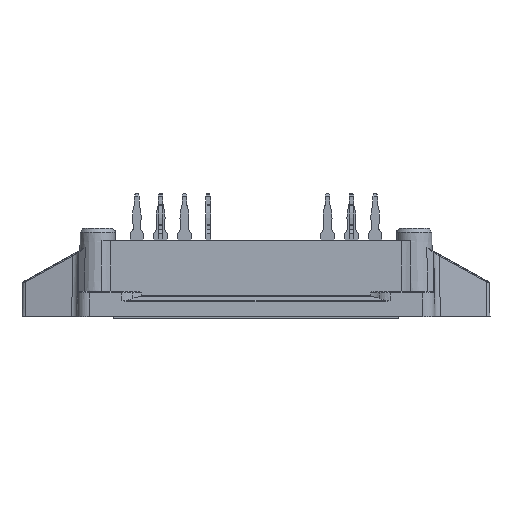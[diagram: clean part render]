
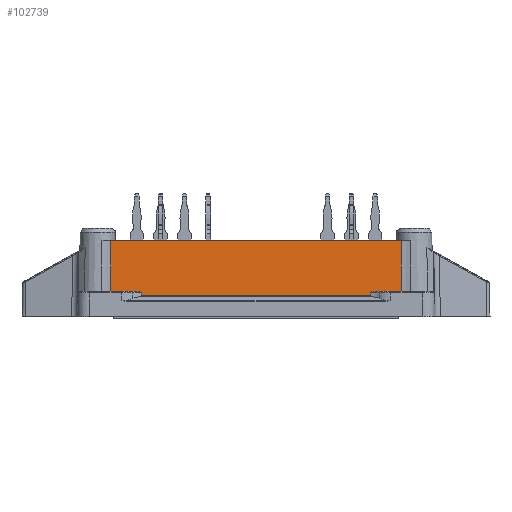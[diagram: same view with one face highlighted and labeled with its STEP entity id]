
A CAD part, front view. The second image highlights one B-rep face of the part: STEP entity #102739.
In plain terms, the highlighted planar face has unit normal (0, -1, 0.018).
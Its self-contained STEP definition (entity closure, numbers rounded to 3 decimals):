
#5688=B_SPLINE_CURVE_WITH_KNOTS('',3,(#142007,#142008,#142009,#142010),
 .UNSPECIFIED.,.F.,.F.,(4,4),(0.001,0.001),
 .UNSPECIFIED.);
#5689=B_SPLINE_CURVE_WITH_KNOTS('',3,(#142015,#142016,#142017,#142018),
 .UNSPECIFIED.,.F.,.F.,(4,4),(0.,0.001),
 .UNSPECIFIED.);
#5690=B_SPLINE_CURVE_WITH_KNOTS('',3,(#142020,#142021,#142022,#142023,#142024,
#142025,#142026,#142027),.UNSPECIFIED.,.F.,.F.,(4,1,1,1,1,4),(0.,
0.,0.,0.,0.001,
0.001),.UNSPECIFIED.);
#5691=B_SPLINE_CURVE_WITH_KNOTS('',3,(#142031,#142032,#142033,#142034),
 .UNSPECIFIED.,.F.,.F.,(4,4),(0.,0.007),.UNSPECIFIED.);
#5692=B_SPLINE_CURVE_WITH_KNOTS('',3,(#142035,#142036,#142037,#142038),
 .UNSPECIFIED.,.F.,.F.,(4,4),(0.,0.007),
 .UNSPECIFIED.);
#5693=B_SPLINE_CURVE_WITH_KNOTS('',3,(#142042,#142043,#142044,#142045,#142046,
#142047,#142048),.UNSPECIFIED.,.F.,.F.,(4,1,1,1,4),(0.,0.,
0.001,0.001,0.001),
 .UNSPECIFIED.);
#7874=ORIENTED_EDGE('',*,*,#29751,.F.);
#7875=ORIENTED_EDGE('',*,*,#29752,.T.);
#7876=ORIENTED_EDGE('',*,*,#29753,.F.);
#7877=ORIENTED_EDGE('',*,*,#29754,.T.);
#7878=ORIENTED_EDGE('',*,*,#29755,.T.);
#7879=ORIENTED_EDGE('',*,*,#29756,.T.);
#7880=ORIENTED_EDGE('',*,*,#28801,.F.);
#7881=ORIENTED_EDGE('',*,*,#29757,.T.);
#7882=ORIENTED_EDGE('',*,*,#29758,.F.);
#7883=ORIENTED_EDGE('',*,*,#29759,.T.);
#28801=EDGE_CURVE('',#39785,#39786,#46098,.T.);
#29751=EDGE_CURVE('',#40652,#40653,#5688,.T.);
#29752=EDGE_CURVE('',#40652,#40654,#46528,.T.);
#29753=EDGE_CURVE('',#40655,#40654,#5689,.T.);
#29754=EDGE_CURVE('',#40655,#40656,#5690,.T.);
#29755=EDGE_CURVE('',#40656,#40657,#46529,.T.);
#29756=EDGE_CURVE('',#40657,#39786,#5691,.T.);
#29757=EDGE_CURVE('',#39785,#40658,#5692,.T.);
#29758=EDGE_CURVE('',#40659,#40658,#46530,.T.);
#29759=EDGE_CURVE('',#40659,#40653,#5693,.T.);
#39785=VERTEX_POINT('',#139664);
#39786=VERTEX_POINT('',#139666);
#40652=VERTEX_POINT('',#142011);
#40653=VERTEX_POINT('',#142012);
#40654=VERTEX_POINT('',#142014);
#40655=VERTEX_POINT('',#142019);
#40656=VERTEX_POINT('',#142028);
#40657=VERTEX_POINT('',#142030);
#40658=VERTEX_POINT('',#142039);
#40659=VERTEX_POINT('',#142041);
#46098=LINE('',#139665,#53428);
#46528=LINE('',#142013,#53858);
#46529=LINE('',#142029,#53859);
#46530=LINE('',#142040,#53860);
#53428=VECTOR('',#116321,1000.);
#53858=VECTOR('',#117757,1000.);
#53859=VECTOR('',#117758,1000.);
#53860=VECTOR('',#117759,1000.);
#60522=EDGE_LOOP('',(#7874,#7875,#7876,#7877,#7878,#7879,#7880,#7881,#7882,
#7883));
#65174=FACE_BOUND('',#60522,.T.);
#69613=PLANE('',#108066);
#102739=ADVANCED_FACE('',(#65174),#69613,.T.);
#108066=AXIS2_PLACEMENT_3D('',#142006,#117755,#117756);
#116321=DIRECTION('',(1.,0.,0.));
#117755=DIRECTION('',(0.,-1.,0.017));
#117756=DIRECTION('',(0.,-0.017,-1.));
#117757=DIRECTION('',(1.,0.,0.));
#117758=DIRECTION('',(1.,0.,0.));
#117759=DIRECTION('',(-1.,0.,0.));
#139664=CARTESIAN_POINT('',(-19.525,-27.653,10.2));
#139665=CARTESIAN_POINT('',(-26.5,-27.653,10.2));
#139666=CARTESIAN_POINT('',(19.525,-27.653,10.2));
#142006=CARTESIAN_POINT('',(-26.5,-27.78,2.9));
#142007=CARTESIAN_POINT('',(-15.378,-27.781,2.822));
#142008=CARTESIAN_POINT('',(-15.379,-27.779,2.949));
#142009=CARTESIAN_POINT('',(-15.379,-27.777,3.076));
#142010=CARTESIAN_POINT('',(-15.379,-27.775,3.203));
#142011=CARTESIAN_POINT('',(-15.378,-27.781,2.822));
#142012=CARTESIAN_POINT('',(-15.379,-27.775,3.203));
#142013=CARTESIAN_POINT('',(-26.5,-27.781,2.822));
#142014=CARTESIAN_POINT('',(15.378,-27.781,2.822));
#142015=CARTESIAN_POINT('',(15.379,-27.775,3.203));
#142016=CARTESIAN_POINT('',(15.379,-27.777,3.076));
#142017=CARTESIAN_POINT('',(15.379,-27.779,2.949));
#142018=CARTESIAN_POINT('',(15.378,-27.781,2.822));
#142019=CARTESIAN_POINT('',(15.379,-27.775,3.203));
#142020=CARTESIAN_POINT('',(15.379,-27.775,3.203));
#142021=CARTESIAN_POINT('',(15.379,-27.774,3.235));
#142022=CARTESIAN_POINT('',(15.441,-27.773,3.274));
#142023=CARTESIAN_POINT('',(15.55,-27.773,3.32));
#142024=CARTESIAN_POINT('',(15.702,-27.772,3.361));
#142025=CARTESIAN_POINT('',(15.882,-27.771,3.392));
#142026=CARTESIAN_POINT('',(16.005,-27.771,3.4));
#142027=CARTESIAN_POINT('',(16.067,-27.771,3.4));
#142028=CARTESIAN_POINT('',(16.067,-27.771,3.4));
#142029=CARTESIAN_POINT('',(-26.5,-27.771,3.4));
#142030=CARTESIAN_POINT('',(19.511,-27.771,3.4));
#142031=CARTESIAN_POINT('',(19.511,-27.771,3.4));
#142032=CARTESIAN_POINT('',(19.516,-27.732,5.667));
#142033=CARTESIAN_POINT('',(19.521,-27.692,7.933));
#142034=CARTESIAN_POINT('',(19.525,-27.653,10.2));
#142035=CARTESIAN_POINT('',(-19.525,-27.653,10.2));
#142036=CARTESIAN_POINT('',(-19.521,-27.692,7.933));
#142037=CARTESIAN_POINT('',(-19.516,-27.732,5.667));
#142038=CARTESIAN_POINT('',(-19.511,-27.771,3.4));
#142039=CARTESIAN_POINT('',(-19.511,-27.771,3.4));
#142040=CARTESIAN_POINT('',(-26.5,-27.771,3.4));
#142041=CARTESIAN_POINT('',(-16.067,-27.771,3.4));
#142042=CARTESIAN_POINT('',(-16.067,-27.771,3.4));
#142043=CARTESIAN_POINT('',(-15.944,-27.771,3.4));
#142044=CARTESIAN_POINT('',(-15.762,-27.772,3.377));
#142045=CARTESIAN_POINT('',(-15.549,-27.773,3.32));
#142046=CARTESIAN_POINT('',(-15.44,-27.773,3.273));
#142047=CARTESIAN_POINT('',(-15.379,-27.774,3.235));
#142048=CARTESIAN_POINT('',(-15.379,-27.775,3.203));
